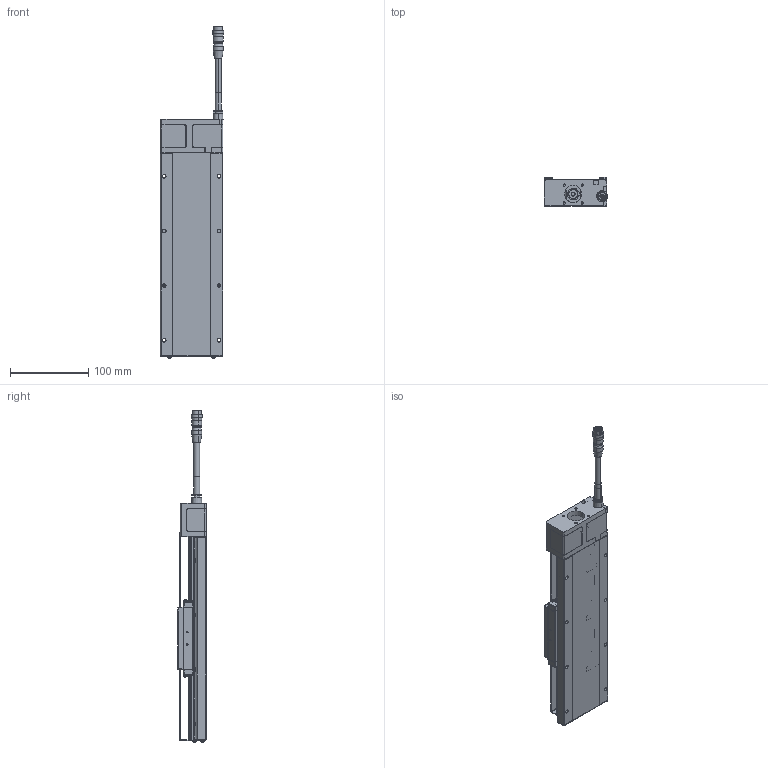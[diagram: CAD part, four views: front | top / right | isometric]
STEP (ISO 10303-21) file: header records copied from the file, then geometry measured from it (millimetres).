
FILE_DESCRIPTION (( 'STEP AP203' ), '1' );
FILE_NAME ('CXC80150-S2?N(µL°¨¹F).S', '2024-01-05T05:31:07', ( '' ), ( '' ), 'SwSTEP 2.0', 'SolidWorks 2019', '' );
FILE_SCHEMA (( 'CONFIG_CONTROL_DESIGN' ));
Length unit declared in the file: millimetre
Products named in the file (10): CXN80150-01-10-2^CXC80150-S2?N(28框無馬達)_defeature_GMT; SG02B005_SCM435(化鎳); SC04B006_SCM435(化鎳); CXC80150-S2?N(無馬達); HR10A-10J-12P_帶線示意; Group2^CXC80150-S2?N(28框無馬達)_defeature_GMT; Group1^CXC80150-S2?N(28框無馬達)_defeature_GMT; SD03B006_SD03B006-SCM435(化鎳); CXC80-102; CXC80150-S2OPAN-303
Assembly tree (17 placements, depth 2):
  CXC80150-S2?N(無馬達)
    Group1^CXC80150-S2?N(28框無馬達)_defeature_GMT
    Group2^CXC80150-S2?N(28框無馬達)_defeature_GMT
    CXN80150-01-10-2^CXC80150-S2?N(28框無馬達)_defeature_GMT
    CXC80150-S2OPAN-303
    CXC80-102  x2
    SC04B006_SCM435(化鎳)  x4
    SD03B006_SD03B006-SCM435(化鎳)  x4
    SG02B005_SCM435(化鎳)  x2
    HR10A-10J-12P_帶線示意
Bounding box: 80.99 x 37 x 425.17 mm (x, y, z)
Volume: 92445.2 mm3; surface area: 183177 mm2
Topology: 34 solids, 36 shells, 3529 faces, 8841 edges, 5315 vertices
Faces by surface type: cylinder 1190, plane 1102, cone 582, torus 294, sphere 188, bspline 173
Entity records: 105001 total; most frequent: CARTESIAN_POINT 25546, DIRECTION 17430, ORIENTED_EDGE 16022, EDGE_CURVE 8011, AXIS2_PLACEMENT_3D 6845, VERTEX_POINT 4899, CIRCLE 3747, LINE 3740
